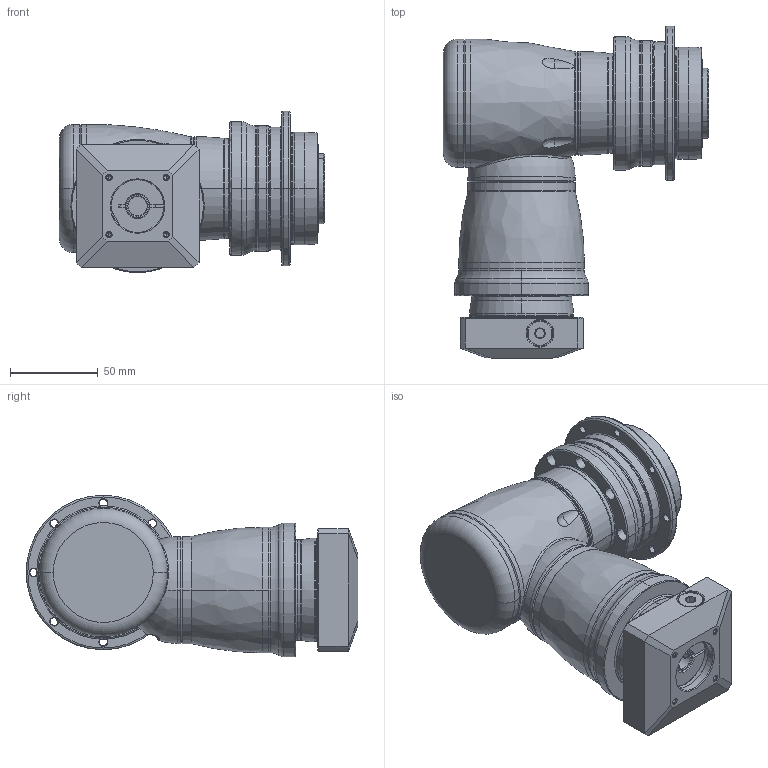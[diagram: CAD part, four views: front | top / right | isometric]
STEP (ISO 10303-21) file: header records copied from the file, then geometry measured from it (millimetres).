
FILE_DESCRIPTION((''),'2;1');
FILE_NAME('AHK064_2ST_11-P0409200101_ASM','2016-09-20T',('d01943'),(''),'PRO/ENGINEER BY PARAMETRIC TECHNOLOGY CORPORATION, 2008410','PRO/ENGINEER BY PARAMETRIC TECHNOLOGY CORPORATION, 2008410','');
FILE_SCHEMA(('CONFIG_CONTROL_DESIGN'));
Length unit declared in the file: millimetre
Products named in the file (12): P1008200002; P1802200101; P0278200003; P0359200003; P1315200001; P1007200001; P1318200101; P0503200005; P0912201001; P0409200101; 21711410012; AHK064_2ST_11-P0409200101_ASM
Assembly tree (11 placements, depth 2):
  AHK064_2ST_11-P0409200101_ASM
    P1008200002
    P1802200101
    P0278200003
    P0359200003
    P1315200001
    P1007200001
    P1318200101
    P0503200005
    P0912201001
    P0409200101
    21711410012
Bounding box: 151 x 189 x 92 mm (x, y, z)
Volume: 681021 mm3; surface area: 168227.7 mm2
Topology: 12 solids, 12 shells, 887 faces, 2063 edges, 1217 vertices
Faces by surface type: cylinder 302, cone 256, torus 132, plane 129, bspline 66, sphere 2
Entity records: 34318 total; most frequent: CARTESIAN_POINT 13925, DIRECTION 4563, ORIENTED_EDGE 4014, EDGE_CURVE 2007, AXIS2_PLACEMENT_3D 1964, VERTEX_POINT 1211, CIRCLE 1120, EDGE_LOOP 1020
